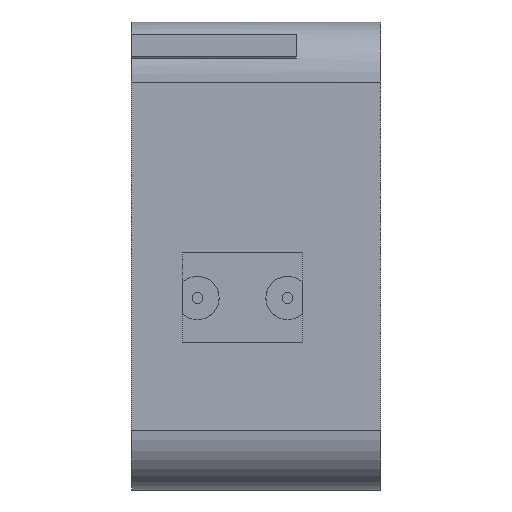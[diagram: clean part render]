
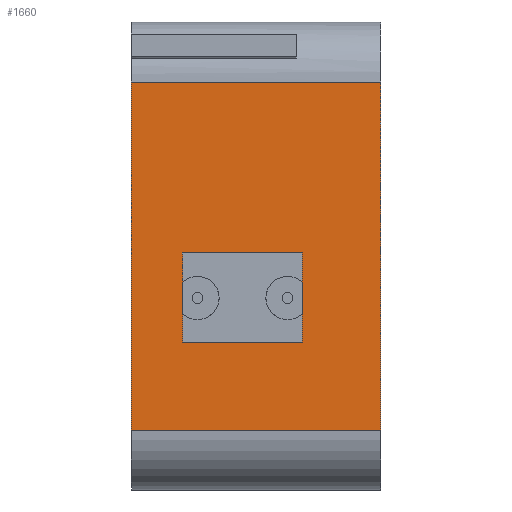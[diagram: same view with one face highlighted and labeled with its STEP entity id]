
A CAD part, left-side view. The second image highlights one B-rep face of the part: STEP entity #1660.
In plain terms, the highlighted planar face has unit normal (-1, 0, 0).
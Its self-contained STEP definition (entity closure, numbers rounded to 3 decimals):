
#44 = PLANE('',#45);
#45 = AXIS2_PLACEMENT_3D('',#46,#47,#48);
#46 = CARTESIAN_POINT('',(0.,-16.,44.));
#47 = DIRECTION('',(0.,1.,0.));
#48 = DIRECTION('',(0.,-0.,1.));
#72 = CYLINDRICAL_SURFACE('',#73,10.);
#73 = AXIS2_PLACEMENT_3D('',#74,#75,#76);
#74 = CARTESIAN_POINT('',(-55.,-16.,73.));
#75 = DIRECTION('',(0.,1.,0.));
#76 = DIRECTION('',(0.,-0.,1.));
#100 = PLANE('',#101);
#101 = AXIS2_PLACEMENT_3D('',#102,#103,#104);
#102 = CARTESIAN_POINT('',(0.,25.5,44.));
#103 = DIRECTION('',(0.,1.,0.));
#104 = DIRECTION('',(0.,-0.,1.));
#283 = VERTEX_POINT('',#284);
#284 = CARTESIAN_POINT('',(-65.,-16.,15.));
#299 = CYLINDRICAL_SURFACE('',#300,10.);
#300 = AXIS2_PLACEMENT_3D('',#301,#302,#303);
#301 = CARTESIAN_POINT('',(-55.,-16.,15.));
#302 = DIRECTION('',(0.,1.,0.));
#303 = DIRECTION('',(0.,0.,-1.));
#311 = EDGE_CURVE('',#283,#312,#314,.T.);
#312 = VERTEX_POINT('',#313);
#313 = CARTESIAN_POINT('',(-65.,-16.,73.));
#314 = SURFACE_CURVE('',#315,(#319,#326),.PCURVE_S1.);
#315 = LINE('',#316,#317);
#316 = CARTESIAN_POINT('',(-65.,-16.,5.));
#317 = VECTOR('',#318,1.);
#318 = DIRECTION('',(0.,0.,1.));
#319 = PCURVE('',#44,#320);
#320 = DEFINITIONAL_REPRESENTATION('',(#321),#325);
#321 = LINE('',#322,#323);
#322 = CARTESIAN_POINT('',(-39.,-65.));
#323 = VECTOR('',#324,1.);
#324 = DIRECTION('',(1.,0.));
#325 = ( GEOMETRIC_REPRESENTATION_CONTEXT(2) 
PARAMETRIC_REPRESENTATION_CONTEXT() REPRESENTATION_CONTEXT('2D SPACE',''
  ) );
#326 = PCURVE('',#327,#332);
#327 = PLANE('',#328);
#328 = AXIS2_PLACEMENT_3D('',#329,#330,#331);
#329 = CARTESIAN_POINT('',(-65.,-16.,5.));
#330 = DIRECTION('',(1.,0.,0.));
#331 = DIRECTION('',(0.,0.,1.));
#332 = DEFINITIONAL_REPRESENTATION('',(#333),#337);
#333 = LINE('',#334,#335);
#334 = CARTESIAN_POINT('',(0.,0.));
#335 = VECTOR('',#336,1.);
#336 = DIRECTION('',(1.,0.));
#337 = ( GEOMETRIC_REPRESENTATION_CONTEXT(2) 
PARAMETRIC_REPRESENTATION_CONTEXT() REPRESENTATION_CONTEXT('2D SPACE',''
  ) );
#525 = EDGE_CURVE('',#526,#312,#528,.T.);
#526 = VERTEX_POINT('',#527);
#527 = CARTESIAN_POINT('',(-65.,25.5,73.));
#528 = SURFACE_CURVE('',#529,(#533,#540),.PCURVE_S1.);
#529 = LINE('',#530,#531);
#530 = CARTESIAN_POINT('',(-65.,25.5,73.));
#531 = VECTOR('',#532,1.);
#532 = DIRECTION('',(0.,-1.,0.));
#533 = PCURVE('',#72,#534);
#534 = DEFINITIONAL_REPRESENTATION('',(#535),#539);
#535 = LINE('',#536,#537);
#536 = CARTESIAN_POINT('',(-1.571,41.5));
#537 = VECTOR('',#538,1.);
#538 = DIRECTION('',(-0.,-1.));
#539 = ( GEOMETRIC_REPRESENTATION_CONTEXT(2) 
PARAMETRIC_REPRESENTATION_CONTEXT() REPRESENTATION_CONTEXT('2D SPACE',''
  ) );
#540 = PCURVE('',#327,#541);
#541 = DEFINITIONAL_REPRESENTATION('',(#542),#546);
#542 = LINE('',#543,#544);
#543 = CARTESIAN_POINT('',(68.,-41.5));
#544 = VECTOR('',#545,1.);
#545 = DIRECTION('',(0.,1.));
#546 = ( GEOMETRIC_REPRESENTATION_CONTEXT(2) 
PARAMETRIC_REPRESENTATION_CONTEXT() REPRESENTATION_CONTEXT('2D SPACE',''
  ) );
#814 = VERTEX_POINT('',#815);
#815 = CARTESIAN_POINT('',(-65.,25.5,15.));
#837 = EDGE_CURVE('',#814,#526,#838,.T.);
#838 = SURFACE_CURVE('',#839,(#843,#850),.PCURVE_S1.);
#839 = LINE('',#840,#841);
#840 = CARTESIAN_POINT('',(-65.,25.5,15.));
#841 = VECTOR('',#842,1.);
#842 = DIRECTION('',(0.,0.,1.));
#843 = PCURVE('',#100,#844);
#844 = DEFINITIONAL_REPRESENTATION('',(#845),#849);
#845 = LINE('',#846,#847);
#846 = CARTESIAN_POINT('',(-29.,-65.));
#847 = VECTOR('',#848,1.);
#848 = DIRECTION('',(1.,0.));
#849 = ( GEOMETRIC_REPRESENTATION_CONTEXT(2) 
PARAMETRIC_REPRESENTATION_CONTEXT() REPRESENTATION_CONTEXT('2D SPACE',''
  ) );
#850 = PCURVE('',#327,#851);
#851 = DEFINITIONAL_REPRESENTATION('',(#852),#856);
#852 = LINE('',#853,#854);
#853 = CARTESIAN_POINT('',(10.,-41.5));
#854 = VECTOR('',#855,1.);
#855 = DIRECTION('',(1.,0.));
#856 = ( GEOMETRIC_REPRESENTATION_CONTEXT(2) 
PARAMETRIC_REPRESENTATION_CONTEXT() REPRESENTATION_CONTEXT('2D SPACE',''
  ) );
#1660 = ADVANCED_FACE('',(#1661,#1687),#327,.F.);
#1661 = FACE_BOUND('',#1662,.F.);
#1662 = EDGE_LOOP('',(#1663,#1664,#1685,#1686));
#1663 = ORIENTED_EDGE('',*,*,#311,.F.);
#1664 = ORIENTED_EDGE('',*,*,#1665,.F.);
#1665 = EDGE_CURVE('',#814,#283,#1666,.T.);
#1666 = SURFACE_CURVE('',#1667,(#1671,#1678),.PCURVE_S1.);
#1667 = LINE('',#1668,#1669);
#1668 = CARTESIAN_POINT('',(-65.,25.5,15.));
#1669 = VECTOR('',#1670,1.);
#1670 = DIRECTION('',(0.,-1.,0.));
#1671 = PCURVE('',#327,#1672);
#1672 = DEFINITIONAL_REPRESENTATION('',(#1673),#1677);
#1673 = LINE('',#1674,#1675);
#1674 = CARTESIAN_POINT('',(10.,-41.5));
#1675 = VECTOR('',#1676,1.);
#1676 = DIRECTION('',(0.,1.));
#1677 = ( GEOMETRIC_REPRESENTATION_CONTEXT(2) 
PARAMETRIC_REPRESENTATION_CONTEXT() REPRESENTATION_CONTEXT('2D SPACE',''
  ) );
#1678 = PCURVE('',#299,#1679);
#1679 = DEFINITIONAL_REPRESENTATION('',(#1680),#1684);
#1680 = LINE('',#1681,#1682);
#1681 = CARTESIAN_POINT('',(1.571,41.5));
#1682 = VECTOR('',#1683,1.);
#1683 = DIRECTION('',(-0.,-1.));
#1684 = ( GEOMETRIC_REPRESENTATION_CONTEXT(2) 
PARAMETRIC_REPRESENTATION_CONTEXT() REPRESENTATION_CONTEXT('2D SPACE',''
  ) );
#1685 = ORIENTED_EDGE('',*,*,#837,.T.);
#1686 = ORIENTED_EDGE('',*,*,#525,.T.);
#1687 = FACE_BOUND('',#1688,.F.);
#1688 = EDGE_LOOP('',(#1689,#1717,#1743,#1769));
#1689 = ORIENTED_EDGE('',*,*,#1690,.T.);
#1690 = EDGE_CURVE('',#1691,#1693,#1695,.T.);
#1691 = VERTEX_POINT('',#1692);
#1692 = CARTESIAN_POINT('',(-65.,17.,29.5));
#1693 = VERTEX_POINT('',#1694);
#1694 = CARTESIAN_POINT('',(-65.,-3.,29.5));
#1695 = SURFACE_CURVE('',#1696,(#1700,#1706),.PCURVE_S1.);
#1696 = LINE('',#1697,#1698);
#1697 = CARTESIAN_POINT('',(-65.,-9.5,29.5));
#1698 = VECTOR('',#1699,1.);
#1699 = DIRECTION('',(0.,-1.,0.));
#1700 = PCURVE('',#327,#1701);
#1701 = DEFINITIONAL_REPRESENTATION('',(#1702),#1705);
#1702 = B_SPLINE_CURVE_WITH_KNOTS('',1,(#1703,#1704),.UNSPECIFIED.,.F.,
  .F.,(2,2),(-26.5,-6.5),.PIECEWISE_BEZIER_KNOTS.);
#1703 = CARTESIAN_POINT('',(24.5,-33.));
#1704 = CARTESIAN_POINT('',(24.5,-13.));
#1705 = ( GEOMETRIC_REPRESENTATION_CONTEXT(2) 
PARAMETRIC_REPRESENTATION_CONTEXT() REPRESENTATION_CONTEXT('2D SPACE',''
  ) );
#1706 = PCURVE('',#1707,#1712);
#1707 = PLANE('',#1708);
#1708 = AXIS2_PLACEMENT_3D('',#1709,#1710,#1711);
#1709 = CARTESIAN_POINT('',(-65.5,-3.,29.5));
#1710 = DIRECTION('',(0.,0.,1.));
#1711 = DIRECTION('',(1.,0.,0.));
#1712 = DEFINITIONAL_REPRESENTATION('',(#1713),#1716);
#1713 = B_SPLINE_CURVE_WITH_KNOTS('',1,(#1714,#1715),.UNSPECIFIED.,.F.,
  .F.,(2,2),(-26.5,-6.5),.PIECEWISE_BEZIER_KNOTS.);
#1714 = CARTESIAN_POINT('',(0.5,20.));
#1715 = CARTESIAN_POINT('',(0.5,0.));
#1716 = ( GEOMETRIC_REPRESENTATION_CONTEXT(2) 
PARAMETRIC_REPRESENTATION_CONTEXT() REPRESENTATION_CONTEXT('2D SPACE',''
  ) );
#1717 = ORIENTED_EDGE('',*,*,#1718,.T.);
#1718 = EDGE_CURVE('',#1693,#1719,#1721,.T.);
#1719 = VERTEX_POINT('',#1720);
#1720 = CARTESIAN_POINT('',(-65.,-3.,44.5));
#1721 = SURFACE_CURVE('',#1722,(#1726,#1732),.PCURVE_S1.);
#1722 = LINE('',#1723,#1724);
#1723 = CARTESIAN_POINT('',(-65.,-3.,17.25));
#1724 = VECTOR('',#1725,1.);
#1725 = DIRECTION('',(0.,0.,1.));
#1726 = PCURVE('',#327,#1727);
#1727 = DEFINITIONAL_REPRESENTATION('',(#1728),#1731);
#1728 = B_SPLINE_CURVE_WITH_KNOTS('',1,(#1729,#1730),.UNSPECIFIED.,.F.,
  .F.,(2,2),(12.25,27.25),.PIECEWISE_BEZIER_KNOTS.);
#1729 = CARTESIAN_POINT('',(24.5,-13.));
#1730 = CARTESIAN_POINT('',(39.5,-13.));
#1731 = ( GEOMETRIC_REPRESENTATION_CONTEXT(2) 
PARAMETRIC_REPRESENTATION_CONTEXT() REPRESENTATION_CONTEXT('2D SPACE',''
  ) );
#1732 = PCURVE('',#1733,#1738);
#1733 = PLANE('',#1734);
#1734 = AXIS2_PLACEMENT_3D('',#1735,#1736,#1737);
#1735 = CARTESIAN_POINT('',(-65.5,-3.,29.5));
#1736 = DIRECTION('',(0.,1.,0.));
#1737 = DIRECTION('',(0.,0.,1.));
#1738 = DEFINITIONAL_REPRESENTATION('',(#1739),#1742);
#1739 = B_SPLINE_CURVE_WITH_KNOTS('',1,(#1740,#1741),.UNSPECIFIED.,.F.,
  .F.,(2,2),(12.25,27.25),.PIECEWISE_BEZIER_KNOTS.);
#1740 = CARTESIAN_POINT('',(0.,0.5));
#1741 = CARTESIAN_POINT('',(15.,0.5));
#1742 = ( GEOMETRIC_REPRESENTATION_CONTEXT(2) 
PARAMETRIC_REPRESENTATION_CONTEXT() REPRESENTATION_CONTEXT('2D SPACE',''
  ) );
#1743 = ORIENTED_EDGE('',*,*,#1744,.F.);
#1744 = EDGE_CURVE('',#1745,#1719,#1747,.T.);
#1745 = VERTEX_POINT('',#1746);
#1746 = CARTESIAN_POINT('',(-65.,17.,44.5));
#1747 = SURFACE_CURVE('',#1748,(#1752,#1758),.PCURVE_S1.);
#1748 = LINE('',#1749,#1750);
#1749 = CARTESIAN_POINT('',(-65.,-9.5,44.5));
#1750 = VECTOR('',#1751,1.);
#1751 = DIRECTION('',(0.,-1.,0.));
#1752 = PCURVE('',#327,#1753);
#1753 = DEFINITIONAL_REPRESENTATION('',(#1754),#1757);
#1754 = B_SPLINE_CURVE_WITH_KNOTS('',1,(#1755,#1756),.UNSPECIFIED.,.F.,
  .F.,(2,2),(-26.5,-6.5),.PIECEWISE_BEZIER_KNOTS.);
#1755 = CARTESIAN_POINT('',(39.5,-33.));
#1756 = CARTESIAN_POINT('',(39.5,-13.));
#1757 = ( GEOMETRIC_REPRESENTATION_CONTEXT(2) 
PARAMETRIC_REPRESENTATION_CONTEXT() REPRESENTATION_CONTEXT('2D SPACE',''
  ) );
#1758 = PCURVE('',#1759,#1764);
#1759 = PLANE('',#1760);
#1760 = AXIS2_PLACEMENT_3D('',#1761,#1762,#1763);
#1761 = CARTESIAN_POINT('',(-65.5,-3.,44.5));
#1762 = DIRECTION('',(0.,0.,1.));
#1763 = DIRECTION('',(1.,0.,0.));
#1764 = DEFINITIONAL_REPRESENTATION('',(#1765),#1768);
#1765 = B_SPLINE_CURVE_WITH_KNOTS('',1,(#1766,#1767),.UNSPECIFIED.,.F.,
  .F.,(2,2),(-26.5,-6.5),.PIECEWISE_BEZIER_KNOTS.);
#1766 = CARTESIAN_POINT('',(0.5,20.));
#1767 = CARTESIAN_POINT('',(0.5,0.));
#1768 = ( GEOMETRIC_REPRESENTATION_CONTEXT(2) 
PARAMETRIC_REPRESENTATION_CONTEXT() REPRESENTATION_CONTEXT('2D SPACE',''
  ) );
#1769 = ORIENTED_EDGE('',*,*,#1770,.F.);
#1770 = EDGE_CURVE('',#1691,#1745,#1771,.T.);
#1771 = SURFACE_CURVE('',#1772,(#1776,#1782),.PCURVE_S1.);
#1772 = LINE('',#1773,#1774);
#1773 = CARTESIAN_POINT('',(-65.,17.,17.25));
#1774 = VECTOR('',#1775,1.);
#1775 = DIRECTION('',(0.,0.,1.));
#1776 = PCURVE('',#327,#1777);
#1777 = DEFINITIONAL_REPRESENTATION('',(#1778),#1781);
#1778 = B_SPLINE_CURVE_WITH_KNOTS('',1,(#1779,#1780),.UNSPECIFIED.,.F.,
  .F.,(2,2),(12.25,27.25),.PIECEWISE_BEZIER_KNOTS.);
#1779 = CARTESIAN_POINT('',(24.5,-33.));
#1780 = CARTESIAN_POINT('',(39.5,-33.));
#1781 = ( GEOMETRIC_REPRESENTATION_CONTEXT(2) 
PARAMETRIC_REPRESENTATION_CONTEXT() REPRESENTATION_CONTEXT('2D SPACE',''
  ) );
#1782 = PCURVE('',#1783,#1788);
#1783 = PLANE('',#1784);
#1784 = AXIS2_PLACEMENT_3D('',#1785,#1786,#1787);
#1785 = CARTESIAN_POINT('',(-65.5,17.,29.5));
#1786 = DIRECTION('',(0.,1.,0.));
#1787 = DIRECTION('',(0.,0.,1.));
#1788 = DEFINITIONAL_REPRESENTATION('',(#1789),#1792);
#1789 = B_SPLINE_CURVE_WITH_KNOTS('',1,(#1790,#1791),.UNSPECIFIED.,.F.,
  .F.,(2,2),(12.25,27.25),.PIECEWISE_BEZIER_KNOTS.);
#1790 = CARTESIAN_POINT('',(0.,0.5));
#1791 = CARTESIAN_POINT('',(15.,0.5));
#1792 = ( GEOMETRIC_REPRESENTATION_CONTEXT(2) 
PARAMETRIC_REPRESENTATION_CONTEXT() REPRESENTATION_CONTEXT('2D SPACE',''
  ) );
